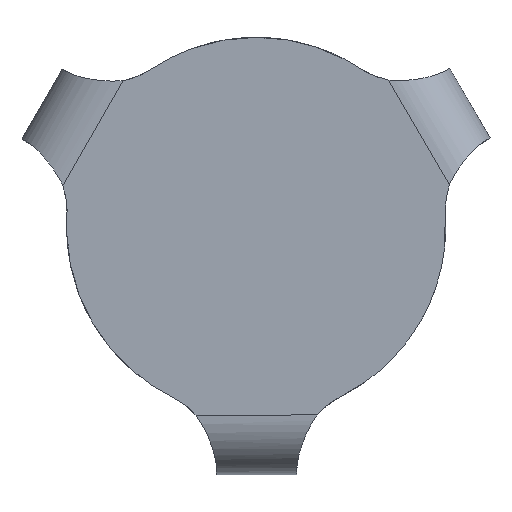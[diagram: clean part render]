
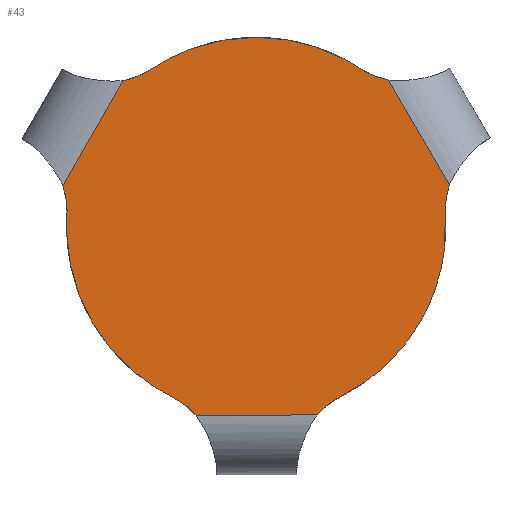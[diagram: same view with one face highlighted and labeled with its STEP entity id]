
A CAD part, top view. The second image highlights one B-rep face of the part: STEP entity #43.
In plain terms, the highlighted planar face has unit normal (0, 0, 1).
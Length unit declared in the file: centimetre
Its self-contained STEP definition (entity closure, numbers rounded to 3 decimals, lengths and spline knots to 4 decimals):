
#43=ADVANCED_FACE($,(#87),#562,.T.);
#87=FACE_OUTER_BOUND($,#131,.T.);
#131=EDGE_LOOP($,(#309,#310,#311,#312,#313,#314,#315,#316,#317));
#309=ORIENTED_EDGE($,*,*,#449,.T.);
#310=ORIENTED_EDGE($,*,*,#432,.F.);
#311=ORIENTED_EDGE($,*,*,#450,.T.);
#312=ORIENTED_EDGE($,*,*,#398,.F.);
#313=ORIENTED_EDGE($,*,*,#381,.F.);
#314=ORIENTED_EDGE($,*,*,#388,.F.);
#315=ORIENTED_EDGE($,*,*,#451,.T.);
#316=ORIENTED_EDGE($,*,*,#408,.F.);
#317=ORIENTED_EDGE($,*,*,#415,.F.);
#381=EDGE_CURVE($,#496,#495,#607,.T.);
#388=EDGE_CURVE($,#502,#496,#659,.T.);
#398=EDGE_CURVE($,#495,#504,#667,.T.);
#408=EDGE_CURVE($,#514,#513,#620,.T.);
#415=EDGE_CURVE($,#520,#514,#673,.T.);
#432=EDGE_CURVE($,#530,#529,#633,.T.);
#449=EDGE_CURVE($,#520,#529,#646,.T.);
#450=EDGE_CURVE($,#530,#504,#647,.T.);
#451=EDGE_CURVE($,#502,#513,#648,.T.);
#495=VERTEX_POINT($,#2328);
#496=VERTEX_POINT($,#2329);
#502=VERTEX_POINT($,#2335);
#504=VERTEX_POINT($,#2337);
#513=VERTEX_POINT($,#2346);
#514=VERTEX_POINT($,#2347);
#520=VERTEX_POINT($,#2353);
#529=VERTEX_POINT($,#2362);
#530=VERTEX_POINT($,#2363);
#562=PLANE($,#808);
#607=B_SPLINE_CURVE_WITH_KNOTS($,1,(#851,#852),.UNSPECIFIED.,.F.,.F.,(2,
2),(-127.7903,0.),.UNSPECIFIED.);
#620=B_SPLINE_CURVE_WITH_KNOTS($,1,(#978,#979),.UNSPECIFIED.,.F.,.F.,(2,
2),(-127.7903,0.),.UNSPECIFIED.);
#633=B_SPLINE_CURVE_WITH_KNOTS($,1,(#1093,#1094),.UNSPECIFIED.,.F.,.F.,(2,
2),(-127.7903,0.),.UNSPECIFIED.);
#646=B_SPLINE_CURVE_WITH_KNOTS($,3,(#1197,#1198,#1199,#1200,#1201,#1202,
#1203,#1204,#1205,#1206),.UNSPECIFIED.,.F.,.F.,(4,2,2,2,4),(-149.112,
-76.9286,-40.9421,-18.0284,0.),.UNSPECIFIED.);
#647=B_SPLINE_CURVE_WITH_KNOTS($,3,(#1207,#1208,#1209,#1210,#1211,#1212,
#1213,#1214,#1215,#1216),.UNSPECIFIED.,.F.,.F.,(4,2,2,2,4),(-149.112,
-131.0836,-108.1899,-72.1826,0.),.UNSPECIFIED.);
#648=B_SPLINE_CURVE_WITH_KNOTS($,3,(#1217,#1218,#1219,#1220,#1221,#1222,
#1223,#1224,#1225,#1226),.UNSPECIFIED.,.F.,.F.,(4,2,2,2,4),(0.,72.1834,
108.1699,131.0836,149.112),.UNSPECIFIED.);
#659=(
BOUNDED_CURVE()
B_SPLINE_CURVE(2,(#911,#912,#913,#914,#915),.UNSPECIFIED.,.F.,.F.)
B_SPLINE_CURVE_WITH_KNOTS((3,2,3),(0.,116.6752,149.112),
.UNSPECIFIED.)
CURVE()
GEOMETRIC_REPRESENTATION_ITEM()
RATIONAL_B_SPLINE_CURVE((1.,0.958,1.,0.982,1.))
REPRESENTATION_ITEM($)
);
#667=(
BOUNDED_CURVE()
B_SPLINE_CURVE(2,(#940,#941,#942,#943,#944),.UNSPECIFIED.,.F.,.F.)
B_SPLINE_CURVE_WITH_KNOTS((3,2,3),(-149.112,-116.6752,0.),
.UNSPECIFIED.)
CURVE()
GEOMETRIC_REPRESENTATION_ITEM()
RATIONAL_B_SPLINE_CURVE((1.,0.982,1.,0.958,1.))
REPRESENTATION_ITEM($)
);
#673=(
BOUNDED_CURVE()
B_SPLINE_CURVE(2,(#1038,#1039,#1040,#1041,#1042),.UNSPECIFIED.,.F.,.F.)
B_SPLINE_CURVE_WITH_KNOTS((3,2,3),(0.,116.6752,149.112),
.UNSPECIFIED.)
CURVE()
GEOMETRIC_REPRESENTATION_ITEM()
RATIONAL_B_SPLINE_CURVE((1.,0.958,1.,0.982,1.))
REPRESENTATION_ITEM($)
);
#808=AXIS2_PLACEMENT_3D($,#1982,#816,$);
#816=DIRECTION($,(0.,0.,1.));
#851=CARTESIAN_POINT($,(13.9639,15.4219,45.9954));
#852=CARTESIAN_POINT($,(20.3768,4.3683,45.9954));
#911=CARTESIAN_POINT($,(-0.0415,19.9342,45.9954));
#912=CARTESIAN_POINT($,(5.9636,19.9466,45.9954));
#913=CARTESIAN_POINT($,(10.9825,16.6492,45.9954));
#914=CARTESIAN_POINT($,(12.3547,15.7476,45.9954));
#915=CARTESIAN_POINT($,(13.9639,15.4219,45.9954));
#940=CARTESIAN_POINT($,(20.3768,4.3683,45.9954));
#941=CARTESIAN_POINT($,(19.8607,2.8097,45.9954));
#942=CARTESIAN_POINT($,(19.9622,1.171,45.9954));
#943=CARTESIAN_POINT($,(20.3336,-4.8225,45.9954));
#944=CARTESIAN_POINT($,(17.342,-10.0293,45.9954));
#978=CARTESIAN_POINT($,(-20.394,4.283,45.9954));
#979=CARTESIAN_POINT($,(-14.0276,15.3635,45.9954));
#1038=CARTESIAN_POINT($,(-17.2989,-10.1022,45.9954));
#1039=CARTESIAN_POINT($,(-20.3123,-4.9079,45.9954));
#1040=CARTESIAN_POINT($,(-19.966,1.0874,45.9954));
#1041=CARTESIAN_POINT($,(-19.8714,2.7265,45.9954));
#1042=CARTESIAN_POINT($,(-20.394,4.283,45.9954));
#1093=CARTESIAN_POINT($,(6.4316,-19.9023,45.9954));
#1094=CARTESIAN_POINT($,(-6.3476,-19.9292,45.9954));
#1197=CARTESIAN_POINT($,(-17.2989,-10.1022,45.9954));
#1198=CARTESIAN_POINT($,(-16.0479,-12.2585,45.9954));
#1199=CARTESIAN_POINT($,(-14.4049,-14.1618,45.9954));
#1200=CARTESIAN_POINT($,(-11.4821,-16.4882,45.9954));
#1201=CARTESIAN_POINT($,(-10.4396,-17.1699,45.9954));
#1202=CARTESIAN_POINT($,(-8.641,-18.1199,45.9954));
#1203=CARTESIAN_POINT($,(-8.3772,-18.217,45.9954));
#1204=CARTESIAN_POINT($,(-7.2203,-19.0499,45.9954));
#1205=CARTESIAN_POINT($,(-6.765,-19.4604,45.9954));
#1206=CARTESIAN_POINT($,(-6.3476,-19.9292,45.9954));
#1207=CARTESIAN_POINT($,(6.4316,-19.9023,45.9954));
#1208=CARTESIAN_POINT($,(6.8471,-19.4317,45.9954));
#1209=CARTESIAN_POINT($,(7.3006,-19.0194,45.9954));
#1210=CARTESIAN_POINT($,(8.4536,-18.1821,45.9954));
#1211=CARTESIAN_POINT($,(8.7162,-18.084,45.9954));
#1212=CARTESIAN_POINT($,(10.511,-17.1265,45.9954));
#1213=CARTESIAN_POINT($,(11.5513,-16.4402,45.9954));
#1214=CARTESIAN_POINT($,(14.465,-14.1011,45.9954));
#1215=CARTESIAN_POINT($,(16.1,-12.1909,45.9954));
#1216=CARTESIAN_POINT($,(17.342,-10.0293,45.9954));
#1217=CARTESIAN_POINT($,(-0.0415,19.9342,45.9954));
#1218=CARTESIAN_POINT($,(-2.5345,19.9289,45.9954));
#1219=CARTESIAN_POINT($,(-5.0043,19.4577,45.9954));
#1220=CARTESIAN_POINT($,(-8.4804,18.0896,45.9954));
#1221=CARTESIAN_POINT($,(-9.592,17.5276,45.9954));
#1222=CARTESIAN_POINT($,(-11.3141,16.445,45.9954));
#1223=CARTESIAN_POINT($,(-11.5301,16.2651,45.9954));
#1224=CARTESIAN_POINT($,(-12.8298,15.6796,45.9954));
#1225=CARTESIAN_POINT($,(-13.4129,15.4906,45.9954));
#1226=CARTESIAN_POINT($,(-14.0276,15.3635,45.9954));
#1982=CARTESIAN_POINT($,(7.3288,-28.2572,45.9954));
#2328=CARTESIAN_POINT($,(20.3768,4.3683,45.9954));
#2329=CARTESIAN_POINT($,(13.9639,15.4219,45.9954));
#2335=CARTESIAN_POINT($,(-0.0415,19.9342,45.9954));
#2337=CARTESIAN_POINT($,(17.342,-10.0293,45.9954));
#2346=CARTESIAN_POINT($,(-14.0276,15.3635,45.9954));
#2347=CARTESIAN_POINT($,(-20.394,4.283,45.9954));
#2353=CARTESIAN_POINT($,(-17.2989,-10.1022,45.9954));
#2362=CARTESIAN_POINT($,(-6.3476,-19.9292,45.9954));
#2363=CARTESIAN_POINT($,(6.4316,-19.9023,45.9954));
